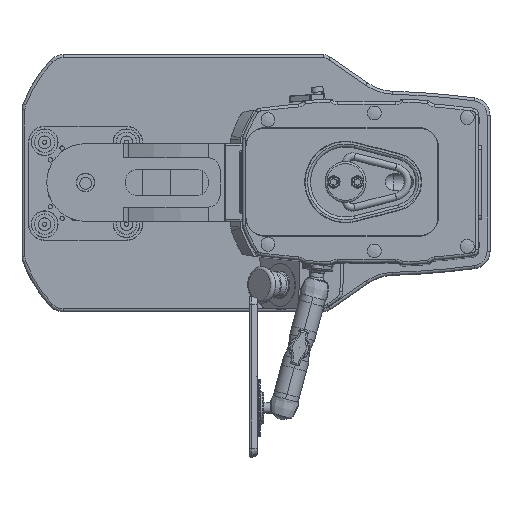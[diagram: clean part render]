
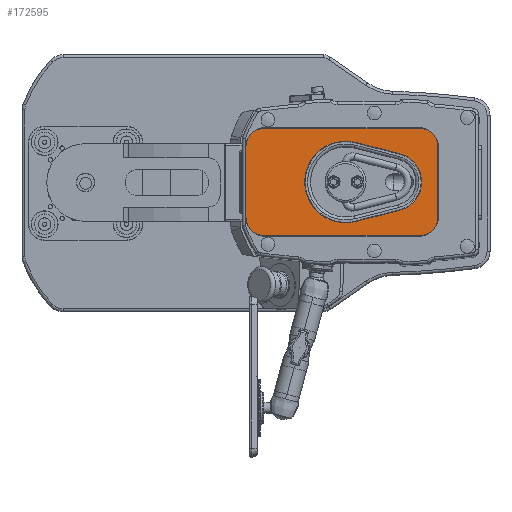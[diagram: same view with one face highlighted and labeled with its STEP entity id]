
A CAD part, top view. The second image highlights one B-rep face of the part: STEP entity #172595.
In plain terms, the highlighted planar face has unit normal (0, 0, 1).
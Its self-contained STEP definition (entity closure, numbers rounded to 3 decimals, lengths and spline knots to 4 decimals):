
#2794=FACE_BOUND('',#13538,.T.);
#4676=FACE_OUTER_BOUND('',#13537,.T.);
#13537=EDGE_LOOP('',(#118508,#118509,#118510,#118511,#118512,#118513,#118514,
#118515));
#13538=EDGE_LOOP('',(#118516,#118517,#118518,#118519));
#22551=CIRCLE('',#182156,0.8);
#22552=CIRCLE('',#182157,0.8);
#22553=CIRCLE('',#182158,0.8);
#22554=CIRCLE('',#182159,0.8);
#22555=CIRCLE('',#182160,1.744);
#22556=CIRCLE('',#182161,1.25);
#27491=LINE('',#245058,#49483);
#27492=LINE('',#245062,#49484);
#27493=LINE('',#245066,#49485);
#27494=LINE('',#245069,#49486);
#27495=LINE('',#245074,#49487);
#27496=LINE('',#245077,#49488);
#49483=VECTOR('',#198671,1.);
#49484=VECTOR('',#198674,1.);
#49485=VECTOR('',#198677,1.);
#49486=VECTOR('',#198680,1.);
#49487=VECTOR('',#198683,1.);
#49488=VECTOR('',#198686,1.);
#71339=VERTEX_POINT('',#245054);
#71340=VERTEX_POINT('',#245055);
#71341=VERTEX_POINT('',#245057);
#71342=VERTEX_POINT('',#245059);
#71343=VERTEX_POINT('',#245061);
#71344=VERTEX_POINT('',#245063);
#71345=VERTEX_POINT('',#245065);
#71346=VERTEX_POINT('',#245067);
#71347=VERTEX_POINT('',#245070);
#71348=VERTEX_POINT('',#245071);
#71349=VERTEX_POINT('',#245073);
#71350=VERTEX_POINT('',#245075);
#90369=EDGE_CURVE('',#71339,#71340,#22551,.T.);
#90370=EDGE_CURVE('',#71340,#71341,#27491,.T.);
#90371=EDGE_CURVE('',#71341,#71342,#22552,.T.);
#90372=EDGE_CURVE('',#71342,#71343,#27492,.T.);
#90373=EDGE_CURVE('',#71343,#71344,#22553,.T.);
#90374=EDGE_CURVE('',#71344,#71345,#27493,.T.);
#90375=EDGE_CURVE('',#71345,#71346,#22554,.T.);
#90376=EDGE_CURVE('',#71346,#71339,#27494,.T.);
#90377=EDGE_CURVE('',#71347,#71348,#22555,.T.);
#90378=EDGE_CURVE('',#71348,#71349,#27495,.T.);
#90379=EDGE_CURVE('',#71349,#71350,#22556,.T.);
#90380=EDGE_CURVE('',#71350,#71347,#27496,.T.);
#118508=ORIENTED_EDGE('',*,*,#90369,.T.);
#118509=ORIENTED_EDGE('',*,*,#90370,.T.);
#118510=ORIENTED_EDGE('',*,*,#90371,.T.);
#118511=ORIENTED_EDGE('',*,*,#90372,.T.);
#118512=ORIENTED_EDGE('',*,*,#90373,.T.);
#118513=ORIENTED_EDGE('',*,*,#90374,.T.);
#118514=ORIENTED_EDGE('',*,*,#90375,.T.);
#118515=ORIENTED_EDGE('',*,*,#90376,.T.);
#118516=ORIENTED_EDGE('',*,*,#90377,.T.);
#118517=ORIENTED_EDGE('',*,*,#90378,.T.);
#118518=ORIENTED_EDGE('',*,*,#90379,.T.);
#118519=ORIENTED_EDGE('',*,*,#90380,.T.);
#165232=PLANE('',#182155);
#172595=ADVANCED_FACE('',(#4676,#2794),#165232,.T.);
#182155=AXIS2_PLACEMENT_3D('',#245053,#198667,#198668);
#182156=AXIS2_PLACEMENT_3D('',#245056,#198669,#198670);
#182157=AXIS2_PLACEMENT_3D('',#245060,#198672,#198673);
#182158=AXIS2_PLACEMENT_3D('',#245064,#198675,#198676);
#182159=AXIS2_PLACEMENT_3D('',#245068,#198678,#198679);
#182160=AXIS2_PLACEMENT_3D('',#245072,#198681,#198682);
#182161=AXIS2_PLACEMENT_3D('',#245076,#198684,#198685);
#198667=DIRECTION('center_axis',(0.,0.,
1.));
#198668=DIRECTION('ref_axis',(0.,1.,0.));
#198669=DIRECTION('center_axis',(0.,0.,
1.));
#198670=DIRECTION('ref_axis',(0.,-1.,0.));
#198671=DIRECTION('',(0.,1.,0.));
#198672=DIRECTION('center_axis',(0.,0.,
1.));
#198673=DIRECTION('ref_axis',(1.,0.,0.));
#198674=DIRECTION('',(-1.,0.,0.));
#198675=DIRECTION('center_axis',(0.,0.,
1.));
#198676=DIRECTION('ref_axis',(0.,1.,0.));
#198677=DIRECTION('',(0.,-1.,0.));
#198678=DIRECTION('center_axis',(0.,0.,
1.));
#198679=DIRECTION('ref_axis',(-1.,0.,0.));
#198680=DIRECTION('',(1.,0.,0.));
#198681=DIRECTION('center_axis',(0.,0.,
-1.));
#198682=DIRECTION('ref_axis',(0.247,0.969,0.));
#198683=DIRECTION('',(0.969,-0.247,0.));
#198684=DIRECTION('center_axis',(0.,0.,
-1.));
#198685=DIRECTION('ref_axis',(0.247,-0.969,0.));
#198686=DIRECTION('',(-0.969,-0.247,0.));
#245053=CARTESIAN_POINT('Origin',(18.6818,36.2456,40.2597));
#245054=CARTESIAN_POINT('',(21.9818,33.9456,40.2597));
#245055=CARTESIAN_POINT('',(22.7818,34.7456,40.2597));
#245056=CARTESIAN_POINT('Origin',(21.9818,34.7456,40.2597));
#245057=CARTESIAN_POINT('',(22.7818,37.7456,40.2597));
#245058=CARTESIAN_POINT('',(22.7818,34.7456,40.2597));
#245059=CARTESIAN_POINT('',(21.9818,38.5456,40.2597));
#245060=CARTESIAN_POINT('Origin',(21.9818,37.7456,40.2597));
#245061=CARTESIAN_POINT('',(15.3818,38.5456,40.2597));
#245062=CARTESIAN_POINT('',(21.9818,38.5456,40.2597));
#245063=CARTESIAN_POINT('',(14.5818,37.7456,40.2597));
#245064=CARTESIAN_POINT('Origin',(15.3818,37.7456,40.2597));
#245065=CARTESIAN_POINT('',(14.5818,34.7456,40.2597));
#245066=CARTESIAN_POINT('',(14.5818,37.7456,40.2597));
#245067=CARTESIAN_POINT('',(15.3818,33.9456,40.2597));
#245068=CARTESIAN_POINT('Origin',(15.3818,34.7456,40.2597));
#245069=CARTESIAN_POINT('',(15.3818,33.9456,40.2597));
#245070=CARTESIAN_POINT('',(19.2666,34.5557,40.2597));
#245071=CARTESIAN_POINT('',(19.2666,37.9356,40.2597));
#245072=CARTESIAN_POINT('Origin',(18.8359,36.2456,40.2597));
#245073=CARTESIAN_POINT('',(21.1446,37.4569,40.2597));
#245074=CARTESIAN_POINT('',(20.1333,37.7147,40.2597));
#245075=CARTESIAN_POINT('',(21.1446,35.0344,40.2597));
#245076=CARTESIAN_POINT('Origin',(20.8359,36.2456,40.2597));
#245077=CARTESIAN_POINT('',(19.1943,34.5372,40.2597));
